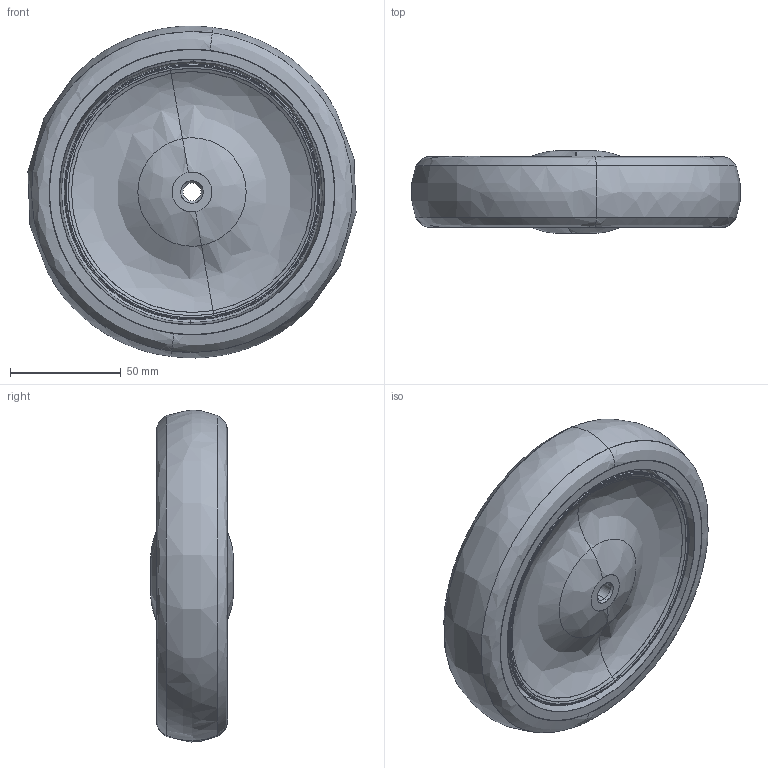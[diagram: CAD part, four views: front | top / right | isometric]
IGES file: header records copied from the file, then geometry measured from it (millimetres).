
Start section: SolidWorks IGES file using analytic representation for surfaces
Global section: file name: S:\Tyokansio\VL\14.2.2012\300075_IGES.IGS; native system: SolidWorks 2011; preprocessor: SolidWorks 2011; author: VilleLa; date: 120227.120829; units: millimetre
Bounding box: 148.2 x 37.34 x 149.97 mm (x, y, z)
Surface area: 100912.1 mm2 (no closed solid volume)
Topology: 0 solids, 0 shells, 62 faces, 1112 edges, 1112 vertices
Faces by surface type: bspline 34, revolution 28
